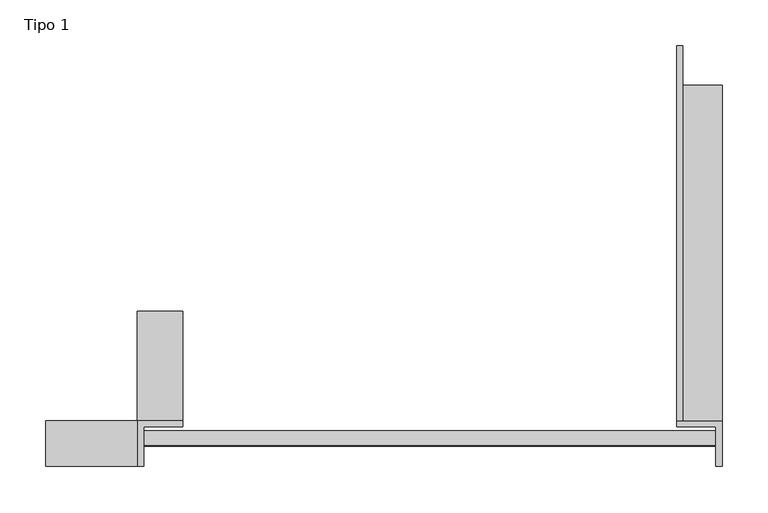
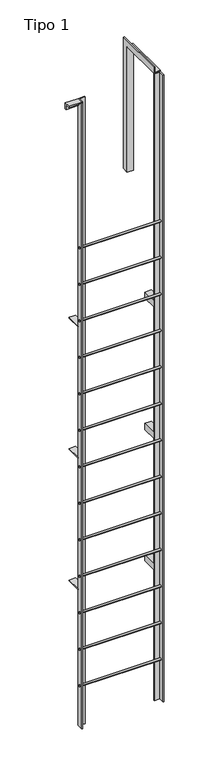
"""IFC4 building model written with IfcOpenShell, lengths in millimetres: proxy geometry, ARQ-ESC-EX-Ace-H3 : Tipo 1."""

from ifc_helpers import new_model, si_unit, point, frame, frame_2d, origin, origin_with_axes, place, context, project, spatial, polyline, circle_curve, trimmed, segment, composite_curve, outline, extrude, faceted_brep, source, transform, mapped, element, save


def tipo_1_08dbf436(model_context):
    return source(origin(), model_context, "Body", "SolidModel", [
        extrude(outline(polyline([(-410.0, 5150.0), (-410.0, 5100.0), (-420.0, 5100.0), (-420.0, 5140.0), (-460.0, 5140.0), (-460.0, 5150.0), (-410.0, 5150.0)])), frame((-295.0, 0.0, 0.0), z_axis=(1.0, 0.0, 0.0), x_axis=(0.0, 1.0, 0.0)), (0.0, 0.0, 1.0), 100.0),
        extrude(outline(composite_curve([segment(trimmed(circle_curve(frame_2d((-429.0311639, 3934.518203)), 8.0), [point((-421.0311639, 3934.518203))], [point((-437.0311639, 3934.518203))], False, "CARTESIAN"), True, "CONTINUOUS"), segment(trimmed(circle_curve(frame_2d((-429.0311639, 3934.518203)), 8.0), [point((-437.0311639, 3934.518203))], [point((-421.0311639, 3934.518203))], False, "CARTESIAN"), True, "CONTINUOUS")], self_intersect=False)), frame((-195.0, 0.0, 0.0), z_axis=(1.0, 0.0, 0.0), x_axis=(0.0, 1.0, 0.0)), (0.0, 0.0, 1.0), 640.0),
        extrude(outline(composite_curve([segment(trimmed(circle_curve(frame_2d((-429.0311639, 3634.518203)), 8.0), [point((-421.0311639, 3634.518203))], [point((-437.0311639, 3634.518203))], False, "CARTESIAN"), True, "CONTINUOUS"), segment(trimmed(circle_curve(frame_2d((-429.0311639, 3634.518203)), 8.0), [point((-437.0311639, 3634.518203))], [point((-421.0311639, 3634.518203))], False, "CARTESIAN"), True, "CONTINUOUS")], self_intersect=False)), frame((-195.0, 0.0, 0.0), z_axis=(1.0, 0.0, 0.0), x_axis=(0.0, 1.0, 0.0)), (0.0, 0.0, 1.0), 640.0),
        extrude(outline(composite_curve([segment(trimmed(circle_curve(frame_2d((-429.0311639, 3334.518203)), 8.0), [point((-421.0311639, 3334.518203))], [point((-437.0311639, 3334.518203))], False, "CARTESIAN"), True, "CONTINUOUS"), segment(trimmed(circle_curve(frame_2d((-429.0311639, 3334.518203)), 8.0), [point((-437.0311639, 3334.518203))], [point((-421.0311639, 3334.518203))], False, "CARTESIAN"), True, "CONTINUOUS")], self_intersect=False)), frame((-195.0, 0.0, 0.0), z_axis=(1.0, 0.0, 0.0), x_axis=(0.0, 1.0, 0.0)), (0.0, 0.0, 1.0), 640.0),
        extrude(outline(composite_curve([segment(trimmed(circle_curve(frame_2d((-429.0311639, 3034.518203)), 8.0), [point((-421.0311639, 3034.518203))], [point((-437.0311639, 3034.518203))], False, "CARTESIAN"), True, "CONTINUOUS"), segment(trimmed(circle_curve(frame_2d((-429.0311639, 3034.518203)), 8.0), [point((-437.0311639, 3034.518203))], [point((-421.0311639, 3034.518203))], False, "CARTESIAN"), True, "CONTINUOUS")], self_intersect=False)), frame((-195.0, 0.0, 0.0), z_axis=(1.0, 0.0, 0.0), x_axis=(0.0, 1.0, 0.0)), (0.0, 0.0, 1.0), 640.0),
        extrude(outline(composite_curve([segment(trimmed(circle_curve(frame_2d((-429.0311639, 2734.518203)), 8.0), [point((-421.0311639, 2734.518203))], [point((-437.0311639, 2734.518203))], False, "CARTESIAN"), True, "CONTINUOUS"), segment(trimmed(circle_curve(frame_2d((-429.0311639, 2734.518203)), 8.0), [point((-437.0311639, 2734.518203))], [point((-421.0311639, 2734.518203))], False, "CARTESIAN"), True, "CONTINUOUS")], self_intersect=False)), frame((-195.0, 0.0, 0.0), z_axis=(1.0, 0.0, 0.0), x_axis=(0.0, 1.0, 0.0)), (0.0, 0.0, 1.0), 640.0),
        extrude(outline(composite_curve([segment(trimmed(circle_curve(frame_2d((-429.0311639, 2434.518203)), 8.0), [point((-421.0311639, 2434.518203))], [point((-437.0311639, 2434.518203))], False, "CARTESIAN"), True, "CONTINUOUS"), segment(trimmed(circle_curve(frame_2d((-429.0311639, 2434.518203)), 8.0), [point((-437.0311639, 2434.518203))], [point((-421.0311639, 2434.518203))], False, "CARTESIAN"), True, "CONTINUOUS")], self_intersect=False)), frame((-195.0, 0.0, 0.0), z_axis=(1.0, 0.0, 0.0), x_axis=(0.0, 1.0, 0.0)), (0.0, 0.0, 1.0), 640.0),
        extrude(outline(composite_curve([segment(trimmed(circle_curve(frame_2d((-429.0311639, 2134.518203)), 8.0), [point((-421.0311639, 2134.518203))], [point((-437.0311639, 2134.518203))], False, "CARTESIAN"), True, "CONTINUOUS"), segment(trimmed(circle_curve(frame_2d((-429.0311639, 2134.518203)), 8.0), [point((-437.0311639, 2134.518203))], [point((-421.0311639, 2134.518203))], False, "CARTESIAN"), True, "CONTINUOUS")], self_intersect=False)), frame((-195.0, 0.0, 0.0), z_axis=(1.0, 0.0, 0.0), x_axis=(0.0, 1.0, 0.0)), (0.0, 0.0, 1.0), 640.0),
        extrude(outline(composite_curve([segment(trimmed(circle_curve(frame_2d((-429.0311639, 1834.518203)), 8.0), [point((-421.0311639, 1834.518203))], [point((-437.0311639, 1834.518203))], False, "CARTESIAN"), True, "CONTINUOUS"), segment(trimmed(circle_curve(frame_2d((-429.0311639, 1834.518203)), 8.0), [point((-437.0311639, 1834.518203))], [point((-421.0311639, 1834.518203))], False, "CARTESIAN"), True, "CONTINUOUS")], self_intersect=False)), frame((-195.0, 0.0, 0.0), z_axis=(1.0, 0.0, 0.0), x_axis=(0.0, 1.0, 0.0)), (0.0, 0.0, 1.0), 640.0),
        extrude(outline(composite_curve([segment(trimmed(circle_curve(frame_2d((-429.0311639, 1534.518203)), 8.0), [point((-421.0311639, 1534.518203))], [point((-437.0311639, 1534.518203))], False, "CARTESIAN"), True, "CONTINUOUS"), segment(trimmed(circle_curve(frame_2d((-429.0311639, 1534.518203)), 8.0), [point((-437.0311639, 1534.518203))], [point((-421.0311639, 1534.518203))], False, "CARTESIAN"), True, "CONTINUOUS")], self_intersect=False)), frame((-195.0, 0.0, 0.0), z_axis=(1.0, 0.0, 0.0), x_axis=(0.0, 1.0, 0.0)), (0.0, 0.0, 1.0), 640.0),
        extrude(outline(composite_curve([segment(trimmed(circle_curve(frame_2d((-429.0311639, 1234.518203)), 8.0), [point((-421.0311639, 1234.518203))], [point((-437.0311639, 1234.518203))], False, "CARTESIAN"), True, "CONTINUOUS"), segment(trimmed(circle_curve(frame_2d((-429.0311639, 1234.518203)), 8.0), [point((-437.0311639, 1234.518203))], [point((-421.0311639, 1234.518203))], False, "CARTESIAN"), True, "CONTINUOUS")], self_intersect=False)), frame((-195.0, 0.0, 0.0), z_axis=(1.0, 0.0, 0.0), x_axis=(0.0, 1.0, 0.0)), (0.0, 0.0, 1.0), 640.0),
        extrude(outline(composite_curve([segment(trimmed(circle_curve(frame_2d((-429.0311639, 934.518203)), 8.0), [point((-421.0311639, 934.518203))], [point((-437.0311639, 934.518203))], False, "CARTESIAN"), True, "CONTINUOUS"), segment(trimmed(circle_curve(frame_2d((-429.0311639, 934.518203)), 8.0), [point((-437.0311639, 934.518203))], [point((-421.0311639, 934.518203))], False, "CARTESIAN"), True, "CONTINUOUS")], self_intersect=False)), frame((-195.0, 0.0, 0.0), z_axis=(1.0, 0.0, 0.0), x_axis=(0.0, 1.0, 0.0)), (0.0, 0.0, 1.0), 640.0),
        extrude(outline(composite_curve([segment(trimmed(circle_curve(frame_2d((-429.0311639, 634.518203)), 8.0), [point((-421.0311639, 634.518203))], [point((-437.0311639, 634.518203))], False, "CARTESIAN"), True, "CONTINUOUS"), segment(trimmed(circle_curve(frame_2d((-429.0311639, 634.518203)), 8.0), [point((-437.0311639, 634.518203))], [point((-421.0311639, 634.518203))], False, "CARTESIAN"), True, "CONTINUOUS")], self_intersect=False)), frame((-195.0, 0.0, 0.0), z_axis=(1.0, 0.0, 0.0), x_axis=(0.0, 1.0, 0.0)), (0.0, 0.0, 1.0), 640.0),
        extrude(outline(composite_curve([segment(trimmed(circle_curve(frame_2d((-429.0311639, 334.518203)), 8.0), [point((-421.0311639, 334.518203))], [point((-437.0311639, 334.518203))], False, "CARTESIAN"), True, "CONTINUOUS"), segment(trimmed(circle_curve(frame_2d((-429.0311639, 334.518203)), 8.0), [point((-437.0311639, 334.518203))], [point((-421.0311639, 334.518203))], False, "CARTESIAN"), True, "CONTINUOUS")], self_intersect=False)), frame((-195.0, 0.0, 0.0), z_axis=(1.0, 0.0, 0.0), x_axis=(0.0, 1.0, 0.0)), (0.0, 0.0, 1.0), 640.0),
        extrude(outline(polyline([(1120.0, 395.0), (1070.0, 395.0), (1070.0, 402.0), (1113.0, 402.0), (1113.0, 445.0), (1120.0, 445.0), (1120.0, 395.0)])), frame((0.0, -410.0, 0.0), z_axis=(0.0, 1.0, 0.0), x_axis=(0.0, 0.0, 1.0)), (0.0, 0.0, 1.0), 120.0),
        extrude(outline(polyline([(2200.0, 395.0), (2150.0, 395.0), (2150.0, 402.0), (2193.0, 402.0), (2193.0, 445.0), (2200.0, 445.0), (2200.0, 395.0)])), frame((0.0, -410.0, 0.0), z_axis=(0.0, 1.0, 0.0), x_axis=(0.0, 0.0, 1.0)), (0.0, 0.0, 1.0), 120.0),
        extrude(outline(polyline([(3280.0, 395.0), (3230.0, 395.0), (3230.0, 402.0), (3273.0, 402.0), (3273.0, 445.0), (3280.0, 445.0), (3280.0, 395.0)])), frame((0.0, -410.0, 0.0), z_axis=(0.0, 1.0, 0.0), x_axis=(0.0, 0.0, 1.0)), (0.0, 0.0, 1.0), 120.0),
        extrude(outline(polyline([(1120.0, -145.0), (1120.0, -195.0), (1113.0, -195.0), (1113.0, -152.0), (1070.0, -152.0), (1070.0, -145.0), (1120.0, -145.0)])), frame((0.0, -410.0, 0.0), z_axis=(0.0, 1.0, 0.0), x_axis=(0.0, 0.0, 1.0)), (0.0, 0.0, 1.0), 120.0),
        extrude(outline(polyline([(2200.0, -145.0), (2200.0, -195.0), (2193.0, -195.0), (2193.0, -152.0), (2150.0, -152.0), (2150.0, -145.0), (2200.0, -145.0)])), frame((0.0, -410.0, 0.0), z_axis=(0.0, 1.0, 0.0), x_axis=(0.0, 0.0, 1.0)), (0.0, 0.0, 1.0), 120.0),
        extrude(outline(polyline([(3280.0, -145.0), (3280.0, -195.0), (3273.0, -195.0), (3273.0, -152.0), (3230.0, -152.0), (3230.0, -145.0), (3280.0, -145.0)])), frame((0.0, -410.0, 0.0), z_axis=(0.0, 1.0, 0.0), x_axis=(0.0, 0.0, 1.0)), (0.0, 0.0, 1.0), 120.0),
        faceted_brep([(395.0, -410.0, 5150.0), (445.0, -410.0, 5150.0), (445.0, -410.0, 5157.0), (402.0, -410.0, 5157.0), (402.0, -410.0, 5200.0), (395.0, -410.0, 5200.0), (395.0, 0.0, 5200.0), (395.0, 0.0, 4120.0), (395.0, -50.0, 4120.0), (395.0, -50.0, 5150.0), (402.0, 0.0, 5200.0), (402.0, -43.0, 5157.0), (402.0, -43.0, 4120.0), (402.0, 0.0, 4120.0), (445.0, -43.0, 5157.0), (445.0, -50.0, 5150.0), (445.0, -50.0, 4120.0), (445.0, -43.0, 4120.0)], [[[0, 1, 2, 3, 4, 5]], [[5, 6, 7, 8, 9, 0]], [[4, 10, 6, 5]], [[3, 11, 12, 13, 10, 4]], [[2, 14, 11, 3]], [[1, 15, 16, 17, 14, 2]], [[0, 9, 15, 1]], [[8, 7, 13, 12, 17, 16]], [[10, 13, 7, 6]], [[14, 17, 12, 11]], [[9, 8, 16, 15]]]),
        extrude(outline(polyline([(-195.0, -410.0), (-145.0, -410.0), (-145.0, -417.0), (-188.0, -417.0), (-188.0, -460.0), (-195.0, -460.0), (-195.0, -410.0)])), origin_with_axes(), (0.0, 0.0, 1.0), 5150.0),
        extrude(outline(polyline([(445.0, -410.0), (445.0, -460.0), (438.0, -460.0), (438.0, -417.0), (395.0, -417.0), (395.0, -410.0), (445.0, -410.0)])), origin_with_axes(), (0.0, 0.0, 1.0), 5150.0),
    ])


if __name__ == "__main__":
    model = new_model("IFC4")
    model_context = context("Model", 3, world=origin())
    ifc_project = project(units=[si_unit("LENGTHUNIT", "METRE", prefix="MILLI")], contexts=[model_context])
    site = spatial("IfcSite", under=ifc_project)
    building = spatial("IfcBuilding", under=site)
    placement = place(None, origin())
    tipo_1_shape = tipo_1_08dbf436(model_context)
    element("IfcBuildingElementProxy", 1, Name="ARQ-ESC-EX-Ace-H3 : Tipo 1", ObjectType="ARQ-ESC-EX-Ace-H3 : Tipo 1", at=placement, inside=building, context=model_context, shape_type="MappedRepresentation", body=[
        mapped(tipo_1_shape, transform((0.0, 0.0, 0.0), x_axis=(1.0, 0.0, 0.0), y_axis=(0.0, 1.0, 0.0), z_axis=(0.0, 0.0, 1.0))),
    ])
    save(model, "model.ifc")
